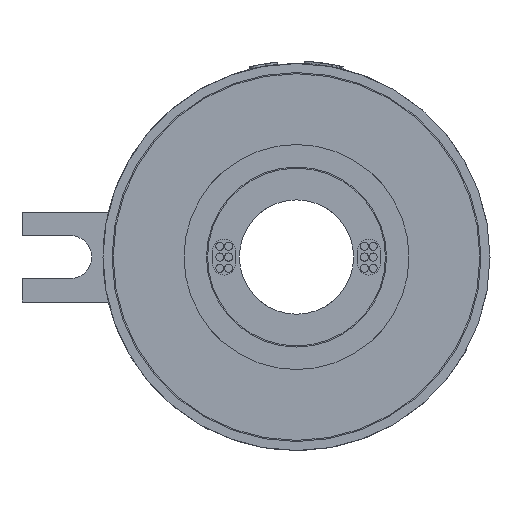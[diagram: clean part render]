
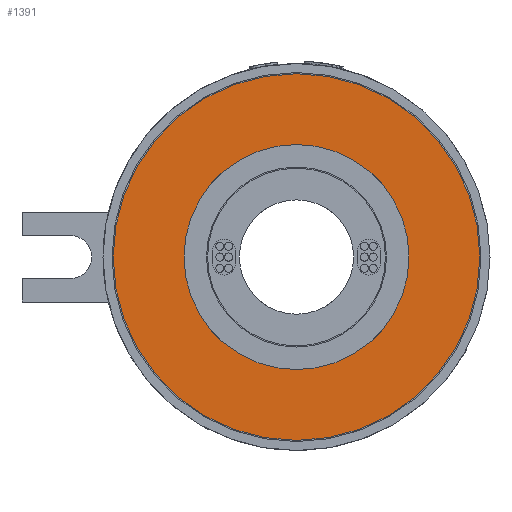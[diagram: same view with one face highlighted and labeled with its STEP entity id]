
A CAD part, front view. The second image highlights one B-rep face of the part: STEP entity #1391.
In plain terms, the highlighted planar face has unit normal (0, -1, 0).
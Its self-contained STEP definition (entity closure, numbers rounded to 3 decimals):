
#240=FACE_BOUND('',#2775,.T.);
#241=FACE_BOUND('',#2776,.T.);
#393=CIRCLE('',#8364,20.);
#397=CIRCLE('',#8370,40.75);
#398=CIRCLE('',#8371,40.75);
#399=CIRCLE('',#8372,20.);
#826=PLANE('',#8373);
#1391=ADVANCED_FACE('',(#240,#241),#826,.F.);
#2775=EDGE_LOOP('',(#4354,#4355));
#2776=EDGE_LOOP('',(#4356,#4357));
#4354=ORIENTED_EDGE('',*,*,#6966,.T.);
#4355=ORIENTED_EDGE('',*,*,#6967,.T.);
#4356=ORIENTED_EDGE('',*,*,#6968,.T.);
#4357=ORIENTED_EDGE('',*,*,#6962,.T.);
#5929=VERTEX_POINT('',#32245);
#5930=VERTEX_POINT('',#32247);
#5933=VERTEX_POINT('',#32257);
#5934=VERTEX_POINT('',#32258);
#6962=EDGE_CURVE('',#5929,#5930,#393,.T.);
#6966=EDGE_CURVE('',#5933,#5934,#397,.T.);
#6967=EDGE_CURVE('',#5934,#5933,#398,.T.);
#6968=EDGE_CURVE('',#5930,#5929,#399,.T.);
#8364=AXIS2_PLACEMENT_3D('',#32248,#9544,#9545);
#8370=AXIS2_PLACEMENT_3D('',#32256,#9556,#9557);
#8371=AXIS2_PLACEMENT_3D('',#32259,#9558,#9559);
#8372=AXIS2_PLACEMENT_3D('',#32260,#9560,#9561);
#8373=AXIS2_PLACEMENT_3D('',#32261,#9562,#9563);
#9544=DIRECTION('',(0.,1.,0.));
#9545=DIRECTION('',(1.,0.,0.));
#9556=DIRECTION('',(0.,-1.,0.));
#9557=DIRECTION('',(1.,0.,0.));
#9558=DIRECTION('',(0.,-1.,0.));
#9559=DIRECTION('',(-1.,0.,0.));
#9560=DIRECTION('',(0.,1.,0.));
#9561=DIRECTION('',(-1.,0.,0.));
#9562=DIRECTION('',(0.,1.,0.));
#9563=DIRECTION('',(-1.,0.,0.));
#32245=CARTESIAN_POINT('',(20.,9.5,0.));
#32247=CARTESIAN_POINT('',(-20.,9.5,0.));
#32248=CARTESIAN_POINT('',(0.,9.5,0.));
#32256=CARTESIAN_POINT('',(0.,9.5,0.));
#32257=CARTESIAN_POINT('',(40.75,9.5,0.));
#32258=CARTESIAN_POINT('',(-40.75,9.5,0.));
#32259=CARTESIAN_POINT('',(0.,9.5,0.));
#32260=CARTESIAN_POINT('',(0.,9.5,0.));
#32261=CARTESIAN_POINT('',(0.,9.5,0.));
